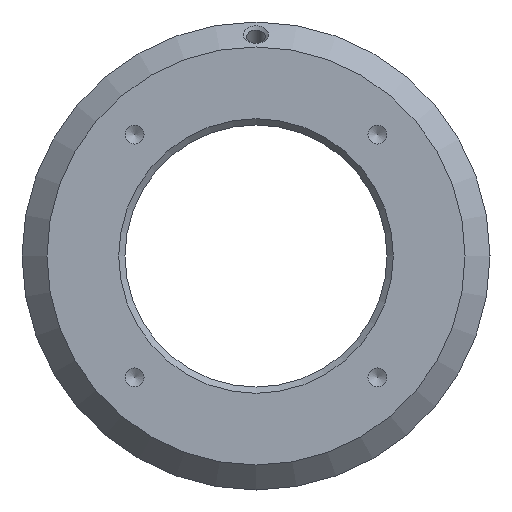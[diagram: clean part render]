
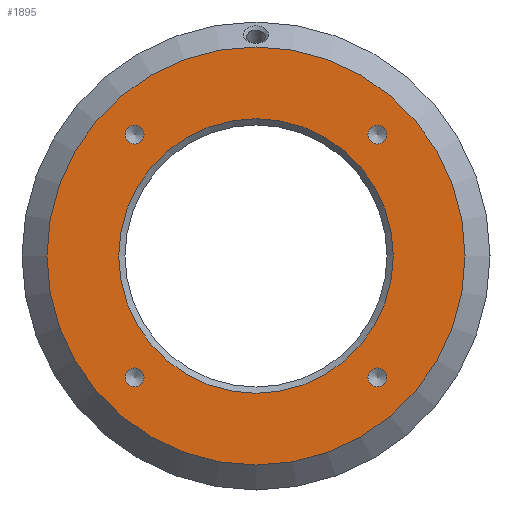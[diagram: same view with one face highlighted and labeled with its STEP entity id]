
A CAD part, front view. The second image highlights one B-rep face of the part: STEP entity #1895.
In plain terms, the highlighted planar face has unit normal (0, -1, 0).
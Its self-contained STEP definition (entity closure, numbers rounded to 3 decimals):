
#1490=CARTESIAN_POINT('',(-33.5,0.0,0.0));
#1491=VERTEX_POINT('',#1490);
#1492=CARTESIAN_POINT('',(0.0,0.0,0.0));
#1493=DIRECTION('',(0.0,1.0,0.0));
#1494=DIRECTION('',(-1.0,0.0,0.0));
#1495=AXIS2_PLACEMENT_3D('',#1492,#1493,#1494);
#1496=CIRCLE('',#1495,33.5);
#1497=EDGE_CURVE('',#1491,#1491,#1496,.T.);
#1580=CARTESIAN_POINT('',(-19.445,0.0,20.945));
#1581=VERTEX_POINT('',#1580);
#1582=CARTESIAN_POINT('',(-19.445,0.0,19.445));
#1583=DIRECTION('',(0.0,1.0,0.0));
#1584=DIRECTION('',(0.0,0.0,1.0));
#1585=AXIS2_PLACEMENT_3D('',#1582,#1583,#1584);
#1586=CIRCLE('',#1585,1.5);
#1587=EDGE_CURVE('',#1581,#1581,#1586,.T.);
#1659=CARTESIAN_POINT('',(-20.945,0.0,-19.445));
#1660=VERTEX_POINT('',#1659);
#1661=CARTESIAN_POINT('',(-19.445,0.0,-19.445));
#1662=DIRECTION('',(0.0,1.0,0.0));
#1663=DIRECTION('',(-1.0,0.0,0.0));
#1664=AXIS2_PLACEMENT_3D('',#1661,#1662,#1663);
#1665=CIRCLE('',#1664,1.5);
#1666=EDGE_CURVE('',#1660,#1660,#1665,.T.);
#1738=CARTESIAN_POINT('',(19.445,0.0,-20.945));
#1739=VERTEX_POINT('',#1738);
#1740=CARTESIAN_POINT('',(19.445,0.0,-19.445));
#1741=DIRECTION('',(0.0,1.0,0.0));
#1742=DIRECTION('',(0.0,0.0,-1.0));
#1743=AXIS2_PLACEMENT_3D('',#1740,#1741,#1742);
#1744=CIRCLE('',#1743,1.5);
#1745=EDGE_CURVE('',#1739,#1739,#1744,.T.);
#1817=CARTESIAN_POINT('',(20.945,0.0,19.445));
#1818=VERTEX_POINT('',#1817);
#1819=CARTESIAN_POINT('',(19.445,0.0,19.445));
#1820=DIRECTION('',(0.0,1.0,0.0));
#1821=DIRECTION('',(1.0,0.0,0.0));
#1822=AXIS2_PLACEMENT_3D('',#1819,#1820,#1821);
#1823=CIRCLE('',#1822,1.5);
#1824=EDGE_CURVE('',#1818,#1818,#1823,.T.);
#1848=CARTESIAN_POINT('',(-22.0,0.0,0.));
#1849=VERTEX_POINT('',#1848);
#1850=CARTESIAN_POINT('',(0.0,0.0,0.0));
#1851=DIRECTION('',(0.0,-1.0,0.0));
#1852=DIRECTION('',(1.0,0.0,0.0));
#1853=AXIS2_PLACEMENT_3D('',#1850,#1851,#1852);
#1854=CIRCLE('',#1853,22.0);
#1855=EDGE_CURVE('',#1849,#1849,#1854,.T.);
#1872=CARTESIAN_POINT('',(-27.25,0.0,0.0));
#1873=DIRECTION('',(0.0,-1.0,0.0));
#1874=DIRECTION('',(0.0,0.0,-1.0));
#1875=AXIS2_PLACEMENT_3D('',#1872,#1873,#1874);
#1876=PLANE('',#1875);
#1877=ORIENTED_EDGE('',*,*,#1497,.F.);
#1878=EDGE_LOOP('',(#1877));
#1879=FACE_OUTER_BOUND('',#1878,.T.);
#1880=ORIENTED_EDGE('',*,*,#1587,.T.);
#1881=EDGE_LOOP('',(#1880));
#1882=FACE_BOUND('',#1881,.T.);
#1883=ORIENTED_EDGE('',*,*,#1666,.T.);
#1884=EDGE_LOOP('',(#1883));
#1885=FACE_BOUND('',#1884,.T.);
#1886=ORIENTED_EDGE('',*,*,#1745,.T.);
#1887=EDGE_LOOP('',(#1886));
#1888=FACE_BOUND('',#1887,.T.);
#1889=ORIENTED_EDGE('',*,*,#1824,.T.);
#1890=EDGE_LOOP('',(#1889));
#1891=FACE_BOUND('',#1890,.T.);
#1892=ORIENTED_EDGE('',*,*,#1855,.F.);
#1893=EDGE_LOOP('',(#1892));
#1894=FACE_BOUND('',#1893,.T.);
#1895=ADVANCED_FACE('',(#1879,#1882,#1885,#1888,#1891,#1894),#1876,.T.);
